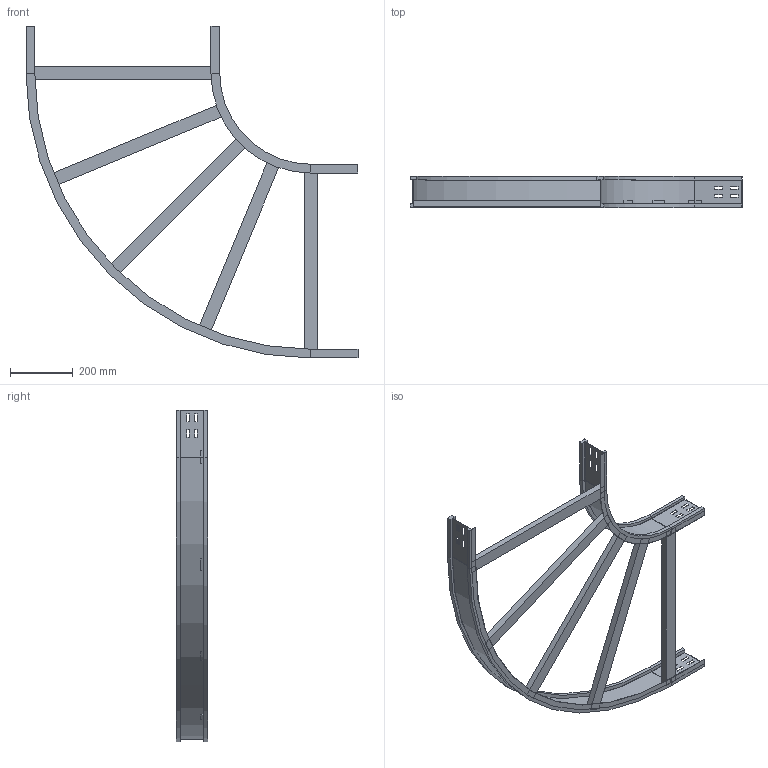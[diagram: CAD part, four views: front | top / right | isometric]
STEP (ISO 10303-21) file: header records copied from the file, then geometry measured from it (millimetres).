
FILE_DESCRIPTION (( 'STEP AP214' ), '1' );
FILE_NAME ('10S3D600.step', '2025-02-21T16:09:04', ( '' ), ( '' ), 'SwSTEP 2.0', 'SolidWorks 2023', '' );
FILE_SCHEMA (( 'AUTOMOTIVE_DESIGN' ));
Length unit declared in the file: millimetre
Products named in the file (4): LONGH.ESTERNO 90°_H100_R300+600; 10S3D600; LONGH.INTERNO 90°_H100_R300; TRAVERSINO_600
Assembly tree (7 placements, depth 2):
  10S3D600
    LONGH.INTERNO 90°_H100_R300
    LONGH.ESTERNO 90°_H100_R300+600
    TRAVERSINO_600  x5
Bounding box: 1059 x 100 x 1059 mm (x, y, z)
Volume: 3730097.7 mm3; surface area: 1103869.8 mm2
Topology: 7 solids, 7 shells, 170 faces, 420 edges, 264 vertices
Faces by surface type: plane 158, cylinder 12
Entity records: 4493 total; most frequent: CARTESIAN_POINT 760, ORIENTED_EDGE 744, DIRECTION 708, EDGE_CURVE 372, LINE 348, VECTOR 348, VERTEX_POINT 232, AXIS2_PLACEMENT_3D 180
